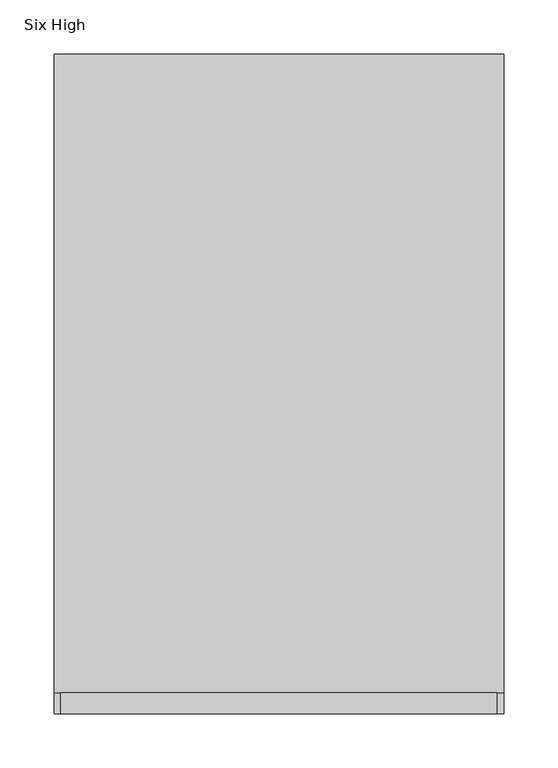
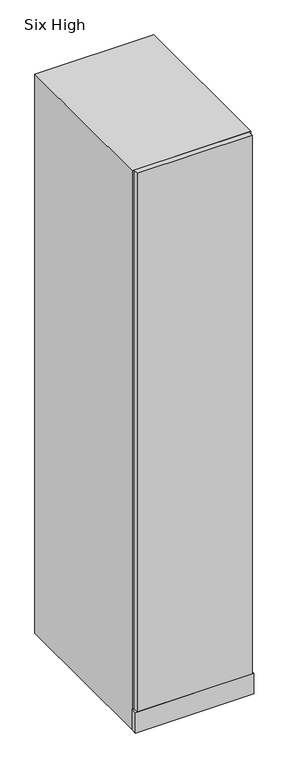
"""IFC4 building model written with IfcOpenShell, lengths in millimetres: furniture geometry, Haworth_Masters_Wardrobe_Tower : Six High."""

from ifc_helpers import new_model, si_unit, frame, origin, origin_with_axes, place, context, project, spatial, polyline, outline, extrude, faceted_brep, source, transform, mapped, element, save


def six_high_299f9636(model_context):
    return source(origin(), model_context, "Body", "SolidModel", [
        extrude(outline(polyline([(103.0827087, -381.0849755), (-300.1422913, -381.0849755), (-300.1422913, -362.0349755), (103.0827087, -362.0349755), (103.0827087, -381.0849755)])), frame((0.0, 0.0, 76.2), z_axis=(0.0, 0.0, 1.0), x_axis=(1.0, 0.0, 0.0)), (0.0, 0.0, 1.0), 1997.075),
        extrude(outline(polyline([(109.4327087, -381.0849755), (-306.4922913, -381.0849755), (-306.4922913, -362.0349755), (109.4327087, -362.0349755), (109.4327087, -381.0849755)])), origin_with_axes(), (0.0, 0.0, 1.0), 76.2),
        faceted_brep([(109.4327087, 228.5150245, 2073.275), (-306.4922913, 228.5150245, 2073.275), (-306.4922913, -362.0349755, 2073.275), (109.4327087, -362.0349755, 2073.275), (109.4327087, -362.0349755, 0.0), (-306.4922913, -362.0349755, 0.0), (-306.4922913, 228.5150245, 0.0), (109.4327087, 228.5150245, 0.0), (90.3827087, 209.4650245, 76.2), (90.3827087, 209.4650245, 2054.225), (-287.4422913, 209.4650245, 2054.225), (-287.4422913, 209.4650245, 76.2), (90.3827087, -362.0349755, 2054.225), (90.3827087, -362.0349755, 76.2), (-287.4422913, -362.0349755, 76.2), (-287.4422913, -362.0349755, 2054.225)], [[[0, 1, 2, 3]], [[4, 5, 6, 7]], [[1, 0, 7, 6]], [[2, 1, 6, 5]], [[8, 9, 10, 11]], [[0, 3, 4, 7]], [[3, 2, 5, 4], [12, 13, 14, 15]], [[13, 12, 9, 8]], [[14, 13, 8, 11]], [[15, 14, 11, 10]], [[12, 15, 10, 9]]]),
        extrude(outline(polyline([(109.4327087, 209.4650245), (109.4327087, -362.0349755), (90.3827087, -362.0349755), (90.3827087, 209.4650245), (109.4327087, 209.4650245)])), frame((0.0, 0.0, 76.2), z_axis=(0.0, 0.0, 1.0), x_axis=(1.0, 0.0, 0.0)), (0.0, 0.0, 1.0), 1978.025),
    ])


if __name__ == "__main__":
    model = new_model("IFC4")
    model_context = context("Model", 3, world=origin())
    ifc_project = project(units=[si_unit("LENGTHUNIT", "METRE", prefix="MILLI")], contexts=[model_context])
    site = spatial("IfcSite", under=ifc_project)
    building = spatial("IfcBuilding", under=site)
    placement = place(None, origin())
    six_high_shape = six_high_299f9636(model_context)
    element("IfcFurniture", 1, ObjectType="Haworth_Masters_Wardrobe_Tower : Six High", at=placement, inside=building, context=model_context, shape_type="MappedRepresentation", body=[
        mapped(six_high_shape, transform((0.0, 0.0, 0.0), x_axis=(1.0, 0.0, 0.0), y_axis=(0.0, 1.0, 0.0), z_axis=(0.0, 0.0, 1.0))),
    ])
    save(model, "model.ifc")
